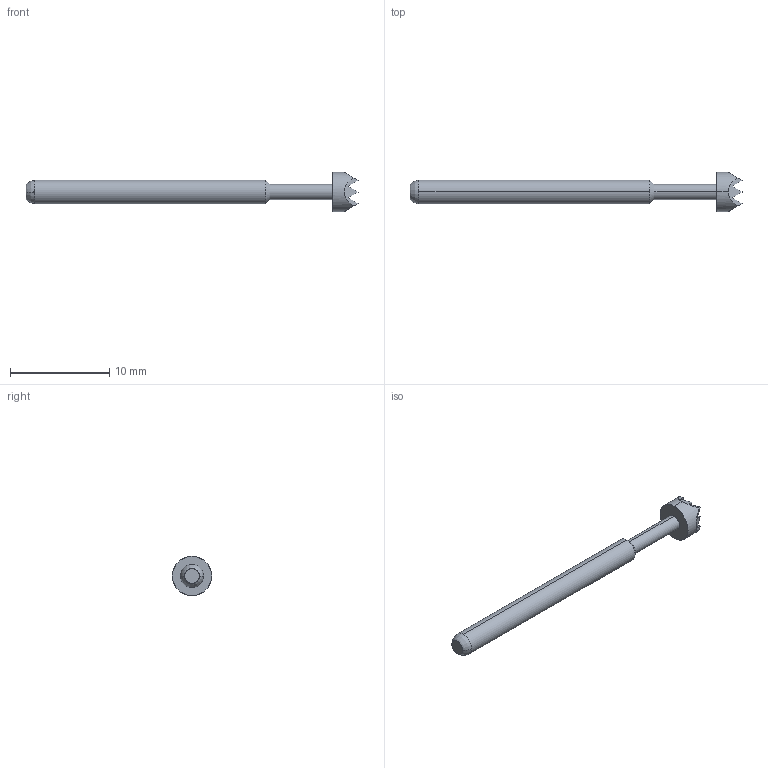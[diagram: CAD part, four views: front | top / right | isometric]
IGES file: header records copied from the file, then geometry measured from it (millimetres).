
Start section: SolidWorks IGES file using analytic representation for surfaces
Global section: file name: Z:\probe solid model mockups\Solidworks models\IGES Files\EPA-4 IGES files\EPA-4H.IGS; native system: SolidWorks 2006 by SolidWorks Corporation; preprocessor: SolidWorks 2006 by SolidWorks Corporation; author: tsakatani; date: 080103.104456; units: inch
Bounding box: 33.53 x 3.96 x 3.96 mm (x, y, z)
Surface area: 269.2 mm2 (no closed solid volume)
Topology: 0 solids, 0 shells, 40 faces, 266 edges, 266 vertices
Faces by surface type: bspline 30, revolution 10
